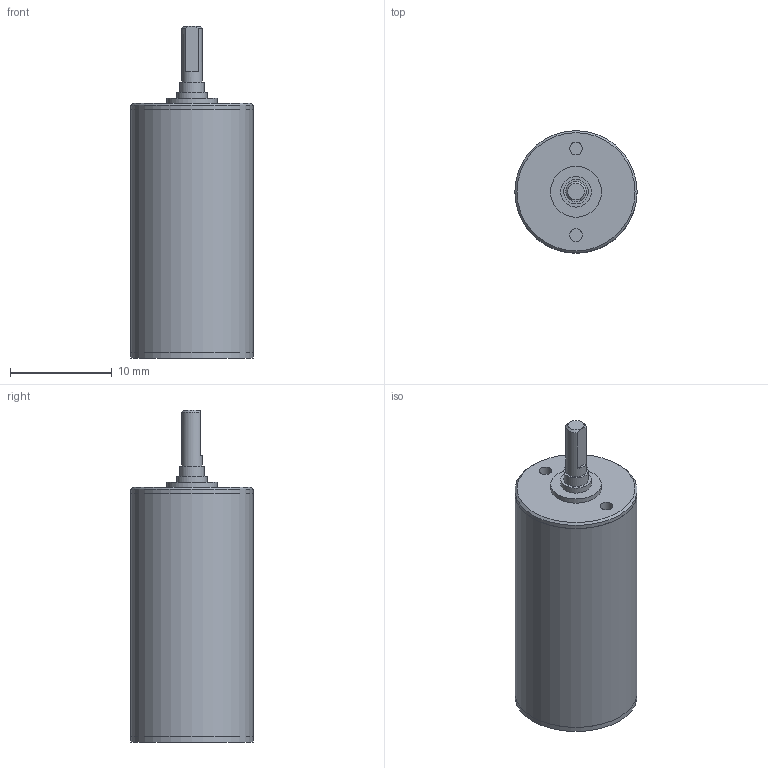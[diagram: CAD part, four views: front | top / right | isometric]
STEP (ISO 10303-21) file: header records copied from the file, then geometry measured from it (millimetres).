
FILE_DESCRIPTION(/* description */ (''),/* implementation_level */ '2;1');
FILE_NAME(/* name */ '12-5_8.stp',/* time_stamp */ '2016-08-24T11:35:44+02:00',/* author */ ('DR. FRITZ FAULHABER GmbH & Co. KG'),/* organization */ ('DR. FRITZ FAULHABER GmbH & Co. KG'),/* preprocessor_version */ 'ST-DEVELOPER v16',/* originating_system */ 'SIEMENS PLM Software NX 10.0',/* authorisation */ '');
FILE_SCHEMA (('AUTOMOTIVE_DESIGN { 1 0 10303 214 3 1 1 1 }'));
Length unit declared in the file: millimetre
Products named in the file (1): H00000607_A
Bounding box: 12 x 12 x 32.6 mm (x, y, z)
Volume: 2783.9 mm3; surface area: 1306.7 mm2
Topology: 1 solids, 1 shells, 35 faces, 58 edges, 38 vertices
Faces by surface type: plane 17, cylinder 15, cone 3
Full cylindrical faces by diameter (mm): 1.25 x2, 2 x1, 2.4 x1, 2.48 x1, 2.6 x1, 3 x1, 5 x2, 6 x1, 11.99 x2, 12 x3
Entity records: 749 total; most frequent: DIRECTION 141, CARTESIAN_POINT 121, ORIENTED_EDGE 76, AXIS2_PLACEMENT_3D 69, EDGE_LOOP 65, FACE_BOUND 58, EDGE_CURVE 38, ADVANCED_FACE 35
